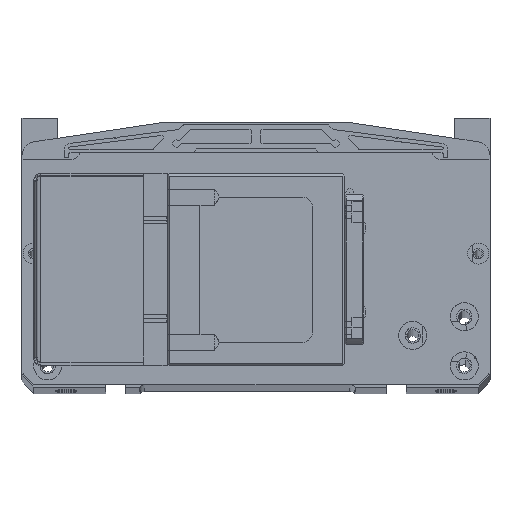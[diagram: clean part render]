
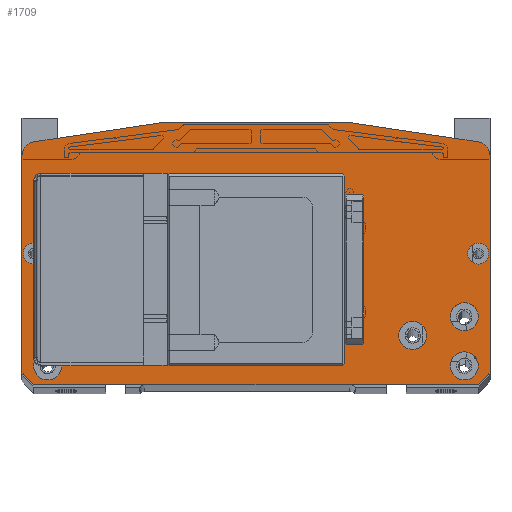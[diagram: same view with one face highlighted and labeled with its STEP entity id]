
A CAD part, top view. The second image highlights one B-rep face of the part: STEP entity #1709.
In plain terms, the highlighted planar face has unit normal (0, 0, 1).
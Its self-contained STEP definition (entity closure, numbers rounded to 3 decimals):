
#1709=ADVANCED_FACE('',(#6199,#6200,#6201,#6202,#6203,#6204,#6205,#6206,
#6207,#6208,#6209,#6210,#6211),#2762,.F.);
#2762=PLANE('',#19218);
#3237=LINE('',#26617,#4718);
#3238=LINE('',#26620,#4719);
#3239=LINE('',#26622,#4720);
#3240=LINE('',#26624,#4721);
#3241=LINE('',#26628,#4722);
#3242=LINE('',#26630,#4723);
#3243=LINE('',#26632,#4724);
#3244=LINE('',#26636,#4725);
#3245=LINE('',#26637,#4726);
#3246=LINE('',#26640,#4727);
#3247=LINE('',#26642,#4728);
#3248=LINE('',#26644,#4729);
#3249=LINE('',#26645,#4730);
#3250=LINE('',#26648,#4731);
#3251=LINE('',#26650,#4732);
#3252=LINE('',#26652,#4733);
#4718=VECTOR('',#21197,1.);
#4719=VECTOR('',#21198,1.);
#4720=VECTOR('',#21199,1.);
#4721=VECTOR('',#21200,1.);
#4722=VECTOR('',#21203,1.);
#4723=VECTOR('',#21204,1.);
#4724=VECTOR('',#21205,1.);
#4725=VECTOR('',#21208,1.);
#4726=VECTOR('',#21209,1.);
#4727=VECTOR('',#21210,1.);
#4728=VECTOR('',#21211,1.);
#4729=VECTOR('',#21212,1.);
#4730=VECTOR('',#21213,1.);
#4731=VECTOR('',#21214,1.);
#4732=VECTOR('',#21215,1.);
#4733=VECTOR('',#21216,1.);
#6199=FACE_BOUND('',#6941,.T.);
#6200=FACE_BOUND('',#6942,.T.);
#6201=FACE_BOUND('',#6943,.T.);
#6202=FACE_BOUND('',#6944,.T.);
#6203=FACE_BOUND('',#6945,.T.);
#6204=FACE_BOUND('',#6946,.T.);
#6205=FACE_BOUND('',#6947,.T.);
#6206=FACE_BOUND('',#6948,.T.);
#6207=FACE_BOUND('',#6949,.T.);
#6208=FACE_BOUND('',#6950,.T.);
#6209=FACE_BOUND('',#6951,.T.);
#6210=FACE_BOUND('',#6952,.T.);
#6211=FACE_BOUND('',#6953,.T.);
#6941=EDGE_LOOP('',(#8406));
#6942=EDGE_LOOP('',(#8407));
#6943=EDGE_LOOP('',(#8408));
#6944=EDGE_LOOP('',(#8409));
#6945=EDGE_LOOP('',(#8410));
#6946=EDGE_LOOP('',(#8411));
#6947=EDGE_LOOP('',(#8412));
#6948=EDGE_LOOP('',(#8413));
#6949=EDGE_LOOP('',(#8414));
#6950=EDGE_LOOP('',(#8415));
#6951=EDGE_LOOP('',(#8416,#8417,#8418,#8419,#8420,#8421,#8422,#8423,#8424,
#8425));
#6952=EDGE_LOOP('',(#8426,#8427,#8428,#8429));
#6953=EDGE_LOOP('',(#8430,#8431,#8432,#8433));
#8406=ORIENTED_EDGE('',*,*,#15608,.T.);
#8407=ORIENTED_EDGE('',*,*,#15609,.T.);
#8408=ORIENTED_EDGE('',*,*,#15610,.T.);
#8409=ORIENTED_EDGE('',*,*,#15611,.T.);
#8410=ORIENTED_EDGE('',*,*,#15612,.T.);
#8411=ORIENTED_EDGE('',*,*,#15613,.T.);
#8412=ORIENTED_EDGE('',*,*,#15614,.T.);
#8413=ORIENTED_EDGE('',*,*,#15615,.T.);
#8414=ORIENTED_EDGE('',*,*,#15616,.T.);
#8415=ORIENTED_EDGE('',*,*,#15617,.T.);
#8416=ORIENTED_EDGE('',*,*,#15618,.F.);
#8417=ORIENTED_EDGE('',*,*,#15619,.T.);
#8418=ORIENTED_EDGE('',*,*,#15620,.F.);
#8419=ORIENTED_EDGE('',*,*,#15621,.T.);
#8420=ORIENTED_EDGE('',*,*,#15622,.F.);
#8421=ORIENTED_EDGE('',*,*,#15623,.F.);
#8422=ORIENTED_EDGE('',*,*,#15624,.T.);
#8423=ORIENTED_EDGE('',*,*,#15625,.F.);
#8424=ORIENTED_EDGE('',*,*,#15626,.F.);
#8425=ORIENTED_EDGE('',*,*,#15627,.T.);
#8426=ORIENTED_EDGE('',*,*,#15628,.T.);
#8427=ORIENTED_EDGE('',*,*,#15629,.T.);
#8428=ORIENTED_EDGE('',*,*,#15630,.T.);
#8429=ORIENTED_EDGE('',*,*,#15631,.T.);
#8430=ORIENTED_EDGE('',*,*,#15632,.F.);
#8431=ORIENTED_EDGE('',*,*,#15633,.F.);
#8432=ORIENTED_EDGE('',*,*,#15634,.T.);
#8433=ORIENTED_EDGE('',*,*,#15635,.T.);
#13764=VERTEX_POINT('',#26598);
#13765=VERTEX_POINT('',#26600);
#13766=VERTEX_POINT('',#26602);
#13767=VERTEX_POINT('',#26604);
#13768=VERTEX_POINT('',#26606);
#13769=VERTEX_POINT('',#26608);
#13770=VERTEX_POINT('',#26610);
#13771=VERTEX_POINT('',#26612);
#13772=VERTEX_POINT('',#26614);
#13773=VERTEX_POINT('',#26616);
#13774=VERTEX_POINT('',#26618);
#13775=VERTEX_POINT('',#26619);
#13776=VERTEX_POINT('',#26621);
#13777=VERTEX_POINT('',#26623);
#13778=VERTEX_POINT('',#26625);
#13779=VERTEX_POINT('',#26627);
#13780=VERTEX_POINT('',#26629);
#13781=VERTEX_POINT('',#26631);
#13782=VERTEX_POINT('',#26633);
#13783=VERTEX_POINT('',#26635);
#13784=VERTEX_POINT('',#26638);
#13785=VERTEX_POINT('',#26639);
#13786=VERTEX_POINT('',#26641);
#13787=VERTEX_POINT('',#26643);
#13788=VERTEX_POINT('',#26646);
#13789=VERTEX_POINT('',#26647);
#13790=VERTEX_POINT('',#26649);
#13791=VERTEX_POINT('',#26651);
#15608=EDGE_CURVE('',#13764,#13764,#18287,.T.);
#15609=EDGE_CURVE('',#13765,#13765,#18288,.T.);
#15610=EDGE_CURVE('',#13766,#13766,#18289,.T.);
#15611=EDGE_CURVE('',#13767,#13767,#18290,.T.);
#15612=EDGE_CURVE('',#13768,#13768,#18291,.T.);
#15613=EDGE_CURVE('',#13769,#13769,#18292,.T.);
#15614=EDGE_CURVE('',#13770,#13770,#18293,.T.);
#15615=EDGE_CURVE('',#13771,#13771,#18294,.T.);
#15616=EDGE_CURVE('',#13772,#13772,#18295,.T.);
#15617=EDGE_CURVE('',#13773,#13773,#18296,.T.);
#15618=EDGE_CURVE('',#13774,#13775,#3237,.T.);
#15619=EDGE_CURVE('',#13774,#13776,#3238,.T.);
#15620=EDGE_CURVE('',#13777,#13776,#3239,.T.);
#15621=EDGE_CURVE('',#13777,#13778,#3240,.T.);
#15622=EDGE_CURVE('',#13779,#13778,#18297,.T.);
#15623=EDGE_CURVE('',#13780,#13779,#3241,.T.);
#15624=EDGE_CURVE('',#13780,#13781,#3242,.T.);
#15625=EDGE_CURVE('',#13782,#13781,#3243,.T.);
#15626=EDGE_CURVE('',#13783,#13782,#18298,.T.);
#15627=EDGE_CURVE('',#13783,#13775,#3244,.T.);
#15628=EDGE_CURVE('',#13784,#13785,#3245,.T.);
#15629=EDGE_CURVE('',#13785,#13786,#3246,.T.);
#15630=EDGE_CURVE('',#13786,#13787,#3247,.T.);
#15631=EDGE_CURVE('',#13787,#13784,#3248,.T.);
#15632=EDGE_CURVE('',#13788,#13789,#3249,.T.);
#15633=EDGE_CURVE('',#13790,#13788,#3250,.T.);
#15634=EDGE_CURVE('',#13790,#13791,#3251,.T.);
#15635=EDGE_CURVE('',#13791,#13789,#3252,.T.);
#18287=CIRCLE('',#19206,1.65);
#18288=CIRCLE('',#19207,1.65);
#18289=CIRCLE('',#19208,4.5);
#18290=CIRCLE('',#19209,4.5);
#18291=CIRCLE('',#19210,6.);
#18292=CIRCLE('',#19211,6.);
#18293=CIRCLE('',#19212,6.);
#18294=CIRCLE('',#19213,6.);
#18295=CIRCLE('',#19214,6.);
#18296=CIRCLE('',#19215,6.);
#18297=CIRCLE('',#19216,6.);
#18298=CIRCLE('',#19217,6.);
#19206=AXIS2_PLACEMENT_3D('',#26597,#21177,#21178);
#19207=AXIS2_PLACEMENT_3D('',#26599,#21179,#21180);
#19208=AXIS2_PLACEMENT_3D('',#26601,#21181,#21182);
#19209=AXIS2_PLACEMENT_3D('',#26603,#21183,#21184);
#19210=AXIS2_PLACEMENT_3D('',#26605,#21185,#21186);
#19211=AXIS2_PLACEMENT_3D('',#26607,#21187,#21188);
#19212=AXIS2_PLACEMENT_3D('',#26609,#21189,#21190);
#19213=AXIS2_PLACEMENT_3D('',#26611,#21191,#21192);
#19214=AXIS2_PLACEMENT_3D('',#26613,#21193,#21194);
#19215=AXIS2_PLACEMENT_3D('',#26615,#21195,#21196);
#19216=AXIS2_PLACEMENT_3D('',#26626,#21201,#21202);
#19217=AXIS2_PLACEMENT_3D('',#26634,#21206,#21207);
#19218=AXIS2_PLACEMENT_3D('',#26653,#21217,#21218);
#21177=DIRECTION('',(0.,0.,-1.));
#21178=DIRECTION('',(1.,0.,0.));
#21179=DIRECTION('',(0.,0.,-1.));
#21180=DIRECTION('',(1.,0.,0.));
#21181=DIRECTION('',(0.,0.,-1.));
#21182=DIRECTION('',(1.,0.,0.));
#21183=DIRECTION('',(0.,0.,-1.));
#21184=DIRECTION('',(1.,0.,0.));
#21185=DIRECTION('',(0.,0.,-1.));
#21186=DIRECTION('',(1.,0.,0.));
#21187=DIRECTION('',(0.,0.,-1.));
#21188=DIRECTION('',(1.,0.,0.));
#21189=DIRECTION('',(0.,0.,-1.));
#21190=DIRECTION('',(1.,0.,0.));
#21191=DIRECTION('',(0.,0.,-1.));
#21192=DIRECTION('',(1.,0.,0.));
#21193=DIRECTION('',(0.,0.,-1.));
#21194=DIRECTION('',(1.,0.,0.));
#21195=DIRECTION('',(0.,0.,-1.));
#21196=DIRECTION('',(1.,0.,0.));
#21197=DIRECTION('',(-0.707,0.707,0.));
#21198=DIRECTION('',(1.,0.,0.));
#21199=DIRECTION('',(-0.707,-0.707,0.));
#21200=DIRECTION('',(0.,1.,0.));
#21201=DIRECTION('',(0.,0.,-1.));
#21202=DIRECTION('',(0.148,0.989,0.));
#21203=DIRECTION('',(0.989,-0.148,0.));
#21204=DIRECTION('',(-1.,0.,0.));
#21205=DIRECTION('',(0.989,0.148,0.));
#21206=DIRECTION('',(0.,0.,-1.));
#21207=DIRECTION('',(-1.,0.,0.));
#21208=DIRECTION('',(0.,-1.,0.));
#21209=DIRECTION('',(0.,1.,0.));
#21210=DIRECTION('',(1.,0.,0.));
#21211=DIRECTION('',(0.,-1.,0.));
#21212=DIRECTION('',(-1.,0.,0.));
#21213=DIRECTION('',(0.,1.,0.));
#21214=DIRECTION('',(1.,0.,0.));
#21215=DIRECTION('',(0.,1.,0.));
#21216=DIRECTION('',(1.,0.,0.));
#21217=DIRECTION('',(0.,0.,-1.));
#21218=DIRECTION('',(-1.,0.,0.));
#26597=CARTESIAN_POINT('',(-42.,33.,463.));
#26598=CARTESIAN_POINT('',(-40.35,33.,463.));
#26599=CARTESIAN_POINT('',(-42.,69.,463.));
#26600=CARTESIAN_POINT('',(-40.35,69.,463.));
#26601=CARTESIAN_POINT('',(-95.,58.,463.));
#26602=CARTESIAN_POINT('',(-90.5,58.,463.));
#26603=CARTESIAN_POINT('',(95.,58.,463.));
#26604=CARTESIAN_POINT('',(99.5,58.,463.));
#26605=CARTESIAN_POINT('',(-67.,23.,463.));
#26606=CARTESIAN_POINT('',(-61.,23.,463.));
#26607=CARTESIAN_POINT('',(67.,23.,463.));
#26608=CARTESIAN_POINT('',(73.,23.,463.));
#26609=CARTESIAN_POINT('',(-89.,31.,463.));
#26610=CARTESIAN_POINT('',(-83.,31.,463.));
#26611=CARTESIAN_POINT('',(89.,31.,463.));
#26612=CARTESIAN_POINT('',(95.,31.,463.));
#26613=CARTESIAN_POINT('',(-89.,10.,463.));
#26614=CARTESIAN_POINT('',(-83.,10.,463.));
#26615=CARTESIAN_POINT('',(89.,10.,463.));
#26616=CARTESIAN_POINT('',(95.,10.,463.));
#26617=CARTESIAN_POINT('',(-95.,2.,463.));
#26618=CARTESIAN_POINT('',(-95.,2.,463.));
#26619=CARTESIAN_POINT('',(-100.,7.,463.));
#26620=CARTESIAN_POINT('',(67.5,2.,463.));
#26621=CARTESIAN_POINT('',(95.,2.,463.));
#26622=CARTESIAN_POINT('',(100.,7.,463.));
#26623=CARTESIAN_POINT('',(100.,7.,463.));
#26624=CARTESIAN_POINT('',(100.,7.,463.));
#26625=CARTESIAN_POINT('',(100.,99.833,463.));
#26626=CARTESIAN_POINT('',(94.,99.833,463.));
#26627=CARTESIAN_POINT('',(94.89,105.766,463.));
#26628=CARTESIAN_POINT('',(40.,114.,463.));
#26629=CARTESIAN_POINT('',(40.,114.,463.));
#26630=CARTESIAN_POINT('',(40.,114.,463.));
#26631=CARTESIAN_POINT('',(-40.,114.,463.));
#26632=CARTESIAN_POINT('',(-94.89,105.766,463.));
#26633=CARTESIAN_POINT('',(-94.89,105.766,463.));
#26634=CARTESIAN_POINT('',(-94.,99.833,463.));
#26635=CARTESIAN_POINT('',(-100.,99.833,463.));
#26636=CARTESIAN_POINT('',(-100.,99.833,463.));
#26637=CARTESIAN_POINT('',(-37.,91.,463.));
#26638=CARTESIAN_POINT('',(-37.,11.,463.));
#26639=CARTESIAN_POINT('',(-37.,91.,463.));
#26640=CARTESIAN_POINT('',(37.,91.,463.));
#26641=CARTESIAN_POINT('',(37.,91.,463.));
#26642=CARTESIAN_POINT('',(37.,11.,463.));
#26643=CARTESIAN_POINT('',(37.,11.,463.));
#26644=CARTESIAN_POINT('',(-37.,11.,463.));
#26645=CARTESIAN_POINT('',(45.5,80.466,463.));
#26646=CARTESIAN_POINT('',(45.5,21.534,463.));
#26647=CARTESIAN_POINT('',(45.5,80.466,463.));
#26648=CARTESIAN_POINT('',(45.5,21.534,463.));
#26649=CARTESIAN_POINT('',(38.5,21.534,463.));
#26650=CARTESIAN_POINT('',(38.5,80.466,463.));
#26651=CARTESIAN_POINT('',(38.5,80.466,463.));
#26652=CARTESIAN_POINT('',(45.5,80.466,463.));
#26653=CARTESIAN_POINT('',(0.,2.,463.));
